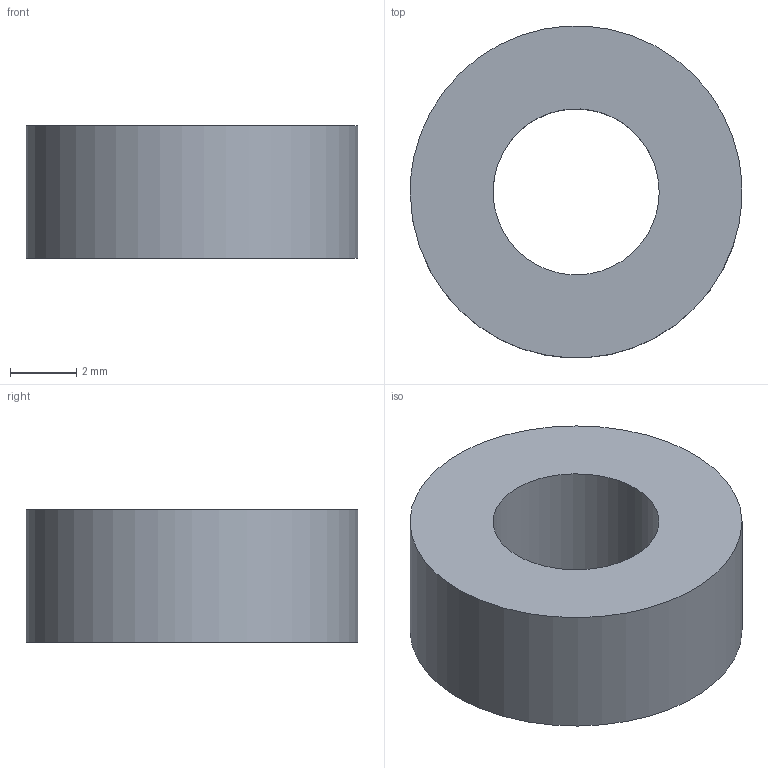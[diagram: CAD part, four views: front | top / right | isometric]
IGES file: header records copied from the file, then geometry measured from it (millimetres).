
Global section: file name: 5x10x4_thrust_bearing v3; native system: unknown; preprocessor: unknown; author: unknown; organization: unknown; date: 20200329.203519; units: millimetre
Bounding box: 9.99 x 9.98 x 4 mm (x, y, z)
Volume: 236 mm3; surface area: 306.6 mm2
Topology: 1 solids, 1 shells, 4 faces, 6 edges, 4 vertices
Faces by surface type: bspline 4
